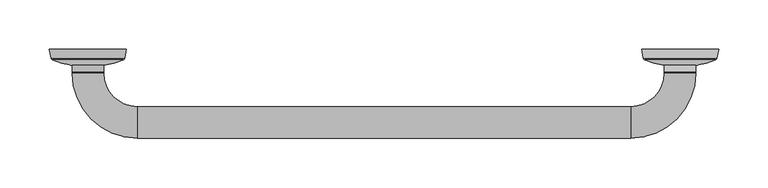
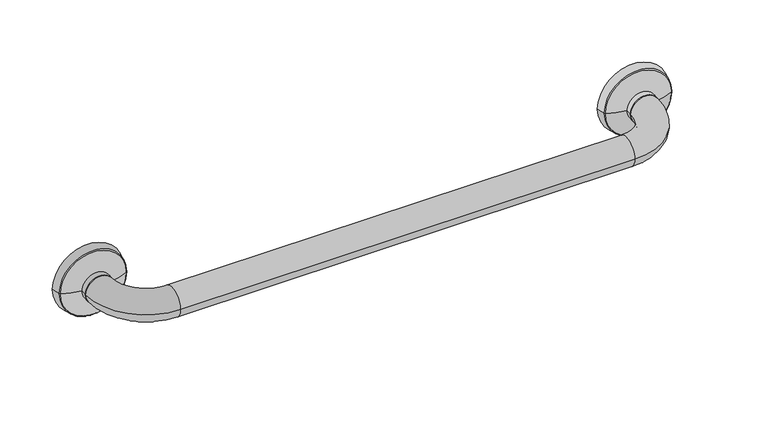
"""IFC4 building model written with IfcOpenShell, lengths in millimetres: proxy geometry, Grab Rail_Metlam_Straight_Horizontal : 632long x 90d x 32h (ML331_1SS)."""

from ifc_helpers import new_model, si_unit, point, frame, origin, place, context, project, spatial, polyline, circle_curve, ellipse_curve, trimmed, source, transform, mapped, element, save
from ifc_brep_helpers import plane_surface, cylinder_surface, revolved_surface, advanced_brep


def specialty_equipment_a5db7934(model_context):
    return source(origin(), model_context, "Body", "AdvancedBrep", [
        advanced_brep(
        [(89.0, -58.0, 784.0), (55.0, -24.0, 784.0), (23.0, -24.0, 784.0), (89.0, -90.0, 784.0), (589.0, -90.0, 784.0), (589.0, -58.0, 784.0), (655.0, -24.0, 784.0), (623.0, -24.0, 784.0), (55.0, -23.0, 784.0), (23.0, -23.0, 784.0), (655.0, -23.0, 784.0), (623.0, -23.0, 784.0), (0.0, 0.0, 784.0), (78.0, 0.0, 784.0), (76.1870729, -9.0646354, 784.0), (1.8129271, -9.0646354, 784.0), (2.8615925, -10.4521085, 784.0), (75.1384075, -10.4521085, 784.0), (55.0, -16.0065539, 784.0), (23.0, -16.0065539, 784.0), (39.0, 0.0, 784.0), (678.0, 0.0, 784.0), (600.0, 0.0, 784.0), (639.0, 0.0, 784.0), (676.1870729, -9.0646354, 784.0), (601.8129271, -9.0646354, 784.0), (655.0, -16.0065539, 784.0), (623.0, -16.0065539, 784.0), (602.8615925, -10.4521085, 784.0), (675.1384075, -10.4521085, 784.0)],
        [
            (0, 1, circle_curve(frame((89.0, -24.0, 784.0), z_axis=(0.0, 0.0, -1.0), x_axis=(-1.0, 0.0, 0.0)), 34.0)),
            (1, 2, circle_curve(frame((39.0, -24.0, 784.0), z_axis=(0.0, -1.0, 0.0), x_axis=(1.0, 0.0, 0.0)), 16.0)),
            (2, 3, circle_curve(frame((89.0, -24.0, 784.0), z_axis=(0.0, 0.0, 1.0), x_axis=(-1.0, 0.0, 0.0)), 66.0)),
            (3, 0, circle_curve(frame((89.0, -74.0, 784.0), z_axis=(-1.0, 1.825290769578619e-12, 0.0), x_axis=(1.825290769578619e-12, 1.0, 0.0)), 16.0)),
            (0, 3, circle_curve(frame((89.0, -74.0, 784.0), z_axis=(-1.0, 3.5350342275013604e-12, 0.0), x_axis=(3.5350342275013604e-12, 1.0, 0.0)), 16.0)),
            (2, 1, circle_curve(frame((39.0, -24.0, 784.0), z_axis=(0.0, -1.0, 0.0), x_axis=(1.0, 0.0, 0.0)), 16.0)),
            (3, 4),
            (4, 5, circle_curve(frame((589.0, -74.0, 784.0), z_axis=(-1.0, 0.0, 0.0), x_axis=(0.0, 1.0, 0.0)), 16.0)),
            (5, 0),
            (5, 4, circle_curve(frame((589.0, -74.0, 784.0), z_axis=(-1.0, 0.0, 0.0), x_axis=(0.0, 1.0, 0.0)), 16.0)),
            (4, 6, circle_curve(frame((589.0, -24.0, 784.0), z_axis=(0.0, 0.0, 1.0), x_axis=(0.0, -1.0, 0.0)), 66.0)),
            (6, 7, circle_curve(frame((639.0, -24.0, 784.0), z_axis=(0.0, -1.0, 0.0), x_axis=(-1.0, 0.0, 0.0)), 16.0)),
            (7, 5, circle_curve(frame((589.0, -24.0, 784.0), z_axis=(0.0, 0.0, -1.0), x_axis=(0.0, -1.0, 0.0)), 34.0)),
            (7, 6, circle_curve(frame((639.0, -24.0, 784.0), z_axis=(0.0, -1.0, 0.0), x_axis=(-1.0, 0.0, 0.0)), 16.0)),
            (1, 8),
            (8, 9, circle_curve(frame((39.0, -23.0, 784.0), z_axis=(0.0, -1.0, 0.0), x_axis=(1.0, 0.0, 0.0)), 16.0)),
            (9, 2),
            (9, 8, circle_curve(frame((39.0, -23.0, 784.0), z_axis=(0.0, -1.0, 0.0), x_axis=(1.0, 0.0, 0.0)), 16.0)),
            (6, 10),
            (10, 11, circle_curve(frame((639.0, -23.0, 784.0), z_axis=(0.0, -1.0, 0.0), x_axis=(-1.0, 0.0, 0.0)), 16.0)),
            (11, 7),
            (11, 10, circle_curve(frame((639.0, -23.0, 784.0), z_axis=(0.0, -1.0, 0.0), x_axis=(-1.0, 0.0, 0.0)), 16.0)),
            (12, 13, circle_curve(frame((39.0, 0.0, 784.0), z_axis=(0.0, -1.0, 0.0), x_axis=(1.0, 0.0, 0.0)), 39.0)),
            (13, 14),
            (14, 15, circle_curve(frame((39.0, -9.0646354, 784.0), z_axis=(0.0, 1.0, 0.0), x_axis=(1.0, 0.0, 0.0)), 37.1870729)),
            (15, 12),
            (13, 12, circle_curve(frame((39.0, 0.0, 784.0), z_axis=(0.0, -1.0, 0.0), x_axis=(1.0, 0.0, 0.0)), 39.0)),
            (15, 14, circle_curve(frame((39.0, -9.0646354, 784.0), z_axis=(0.0, 1.0, 0.0), x_axis=(1.0, 0.0, 0.0)), 37.1870729)),
            (16, 17, circle_curve(frame((39.0, -10.4521085, 784.0), z_axis=(0.0, -1.0, 0.0), x_axis=(1.0, 0.0, 0.0)), 36.1384075)),
            (17, 18, circle_curve(frame((51.6887092, 35.2834961, 784.0), z_axis=(0.0, 0.0, -1.0), x_axis=(-1.0, 0.0, 0.0)), 51.3968275)),
            (18, 19, circle_curve(frame((39.0, -16.0065539, 784.0), z_axis=(0.0, 1.0, 0.0), x_axis=(1.0, 0.0, 0.0)), 16.0)),
            (19, 16, circle_curve(frame((26.3112908, 35.2834961, 784.0), z_axis=(0.0, 0.0, -1.0), x_axis=(1.0, 0.0, 0.0)), 51.3968275)),
            (17, 16, circle_curve(frame((39.0, -10.4521085, 784.0), z_axis=(0.0, -1.0, 0.0), x_axis=(1.0, 0.0, 0.0)), 36.1384075)),
            (19, 18, circle_curve(frame((39.0, -16.0065539, 784.0), z_axis=(0.0, 1.0, 0.0), x_axis=(1.0, 0.0, 0.0)), 16.0)),
            (18, 8),
            (9, 19),
            (12, 20),
            (20, 13),
            (14, 17, circle_curve(frame((74.2259116, -8.6724031, 784.0), z_axis=(0.0, 0.0, -1.0), x_axis=(-1.0, 0.0, 0.0)), 2.0)),
            (16, 15, circle_curve(frame((3.7740884, -8.6724031, 784.0), z_axis=(0.0, 0.0, -1.0), x_axis=(1.0, 0.0, 0.0)), 2.0)),
            (21, 22, circle_curve(frame((639.0, 0.0, 784.0), z_axis=(0.0, 1.0, 0.0), x_axis=(-1.0, 0.0, 0.0)), 39.0)),
            (22, 23),
            (23, 21),
            (22, 21, circle_curve(frame((639.0, 0.0, 784.0), z_axis=(0.0, 1.0, 0.0), x_axis=(-1.0, 0.0, 0.0)), 39.0)),
            (21, 24),
            (24, 25, circle_curve(frame((639.0, -9.0646354, 784.0), z_axis=(0.0, 1.0, 0.0), x_axis=(-1.0, 0.0, 0.0)), 37.1870729)),
            (25, 22),
            (25, 24, circle_curve(frame((639.0, -9.0646354, 784.0), z_axis=(0.0, 1.0, 0.0), x_axis=(-1.0, 0.0, 0.0)), 37.1870729)),
            (26, 27, circle_curve(frame((639.0, -16.0065539, 784.0), z_axis=(0.0, 1.0, 0.0), x_axis=(-1.0, 0.0, 0.0)), 16.0)),
            (27, 28, circle_curve(frame((626.3112908, 35.2834961, 784.0), z_axis=(0.0, 0.0, -1.0), x_axis=(-1.0, 0.0, 0.0)), 51.3968275)),
            (28, 29, circle_curve(frame((639.0, -10.4521085, 784.0), z_axis=(0.0, -1.0, 0.0), x_axis=(-1.0, 0.0, 0.0)), 36.1384075)),
            (29, 26, circle_curve(frame((651.6887092, 35.2834961, 784.0), z_axis=(0.0, 0.0, -1.0), x_axis=(1.0, 0.0, 0.0)), 51.3968275)),
            (27, 26, circle_curve(frame((639.0, -16.0065539, 784.0), z_axis=(0.0, 1.0, 0.0), x_axis=(-1.0, 0.0, 0.0)), 16.0)),
            (29, 28, circle_curve(frame((639.0, -10.4521085, 784.0), z_axis=(0.0, -1.0, 0.0), x_axis=(-1.0, 0.0, 0.0)), 36.1384075)),
            (26, 10),
            (11, 27),
            (24, 29, circle_curve(frame((674.2259116, -8.6724031, 784.0), z_axis=(0.0, 0.0, -1.0), x_axis=(1.0, 0.0, 0.0)), 2.0)),
            (28, 25, circle_curve(frame((603.7740884, -8.6724031, 784.0), z_axis=(0.0, 0.0, -1.0), x_axis=(-1.0, 0.0, 0.0)), 2.0)),
        ],
        [
            revolved_surface(trimmed(ellipse_curve(frame((39.0, -24.0, 784.0), z_axis=(0.0, 1.0, 0.0), x_axis=(1.0, 0.0, 0.0)), 16.0, 16.0), [point((23.0, -24.0, 784.0))], [point((55.0, -24.0, 784.0))], True, "CARTESIAN"), (89.0, -24.0, 784.0), (0.0, 0.0, 1.0)),
            revolved_surface(trimmed(ellipse_curve(frame((39.0, -24.0, 784.0), z_axis=(0.0, 1.0, 0.0), x_axis=(1.0, 0.0, 0.0)), 16.0, 16.0), [point((55.0, -24.0, 784.0))], [point((23.0, -24.0, 784.0))], True, "CARTESIAN"), (89.0, -24.0, 784.0), (0.0, 0.0, 1.0)),
            cylinder_surface(frame((89.0, -74.0, 784.0), z_axis=(-1.0, 0.0, 0.0), x_axis=(0.0, 1.0, 0.0)), 16.0),
            revolved_surface(trimmed(ellipse_curve(frame((589.0, -74.0, 784.0), z_axis=(-1.0, 0.0, 0.0), x_axis=(0.0, 1.0, 0.0)), 16.0, 16.0), [point((589.0, -90.0, 784.0))], [point((589.0, -58.0, 784.0))], True, "CARTESIAN"), (589.0, -24.0, 784.0), (0.0, 0.0, 1.0)),
            revolved_surface(trimmed(ellipse_curve(frame((589.0, -74.0, 784.0), z_axis=(-1.0, 0.0, 0.0), x_axis=(0.0, 1.0, 0.0)), 16.0, 16.0), [point((589.0, -58.0, 784.0))], [point((589.0, -90.0, 784.0))], True, "CARTESIAN"), (589.0, -24.0, 784.0), (0.0, 0.0, 1.0)),
            cylinder_surface(frame((39.0, -23.0, 784.0), z_axis=(0.0, 1.0, 0.0), x_axis=(1.0, 0.0, 0.0)), 16.0),
            cylinder_surface(frame((639.0, -24.0, 784.0), z_axis=(0.0, -1.0, 0.0), x_axis=(-1.0, 0.0, 0.0)), 16.0),
            revolved_surface(polyline([(76.1870729, -9.0646354, 784.0), (78.0, 0.0, 784.0)]), (39.0, -10.0, 784.0), (0.0, 1.0, 0.0)),
            revolved_surface(trimmed(ellipse_curve(frame((51.6887092, 35.2834961, 784.0), z_axis=(0.0, 0.0, 1.0), x_axis=(-1.0, 0.0, 0.0)), 51.3968275, 51.3968275), [point((55.0, -16.0065539, 784.0))], [point((75.1384075, -10.4521085, 784.0))], True, "CARTESIAN"), (39.0, -10.0, 784.0), (0.0, 1.0, 0.0)),
            cylinder_surface(frame((39.0, -10.0, 784.0), z_axis=(0.0, 1.0, 0.0), x_axis=(1.0, 0.0, 0.0)), 16.0),
            plane_surface(frame((39.0, 0.0, 784.0), z_axis=(0.0, 1.0, 0.0), x_axis=(1.0, 0.0, 0.0))),
            revolved_surface(trimmed(ellipse_curve(frame((74.2259116, -8.6724031, 784.0), z_axis=(0.0, 0.0, 1.0), x_axis=(-1.0, 0.0, 0.0)), 2.0, 2.0), [point((75.1384075, -10.4521085, 784.0))], [point((76.1870729, -9.0646354, 784.0))], True, "CARTESIAN"), (39.0, -10.0, 784.0), (0.0, 1.0, 0.0)),
            plane_surface(frame((639.0, 0.0, 784.0), z_axis=(0.0, 1.0, 0.0), x_axis=(-1.0, 0.0, 0.0))),
            revolved_surface(polyline([(600.0, 0.0, 784.0), (601.8129271, -9.0646354, 784.0)]), (639.0, -10.0, 784.0), (0.0, -1.0, 0.0)),
            revolved_surface(trimmed(ellipse_curve(frame((626.3112908, 35.2834961, 784.0), z_axis=(0.0, 0.0, 1.0), x_axis=(-1.0, 0.0, 0.0)), 51.3968275, 51.3968275), [point((602.8615925, -10.4521085, 784.0))], [point((623.0, -16.0065539, 784.0))], True, "CARTESIAN"), (639.0, -10.0, 784.0), (0.0, -1.0, 0.0)),
            cylinder_surface(frame((639.0, -10.0, 784.0), z_axis=(0.0, -1.0, 0.0), x_axis=(-1.0, 0.0, 0.0)), 16.0),
            revolved_surface(trimmed(ellipse_curve(frame((603.7740884, -8.6724031, 784.0), z_axis=(0.0, 0.0, 1.0), x_axis=(-1.0, 0.0, 0.0)), 2.0, 2.0), [point((601.8129271, -9.0646354, 784.0))], [point((602.8615925, -10.4521085, 784.0))], True, "CARTESIAN"), (639.0, -10.0, 784.0), (0.0, -1.0, 0.0)),
        ],
        [
            (0, [[1, 2, 3, 4]]),
            (1, [[-1, 5, -3, 6]]),
            (2, [[-4, 7, 8, 9]]),
            (2, [[-5, -9, 10, -7]]),
            (3, [[-8, 11, 12, 13]]),
            (4, [[-10, -13, 14, -11]]),
            (5, [[-2, 15, 16, 17]]),
            (5, [[-6, -17, 18, -15]]),
            (6, [[-12, 19, 20, 21]]),
            (6, [[-14, -21, 22, -19]]),
            (7, [[23, 24, 25, 26]]),
            (7, [[-24, 27, -26, 28]]),
            (8, [[29, 30, 31, 32]]),
            (8, [[-30, 33, -32, 34]]),
            (9, [[-31, 35, -18, 36]]),
            (9, [[-34, -36, -16, -35]]),
            (10, [[-23, 37, 38]]),
            (10, [[-27, -38, -37]]),
            (11, [[-25, 39, -29, 40]]),
            (11, [[-28, -40, -33, -39]]),
            (12, [[41, 42, 43]]),
            (12, [[-42, 44, -43]]),
            (13, [[-41, 45, 46, 47]]),
            (13, [[-44, -47, 48, -45]]),
            (14, [[49, 50, 51, 52]]),
            (14, [[-50, 53, -52, 54]]),
            (15, [[-49, 55, -22, 56]]),
            (15, [[-53, -56, -20, -55]]),
            (16, [[-46, 57, -51, 58]]),
            (16, [[-48, -58, -54, -57]]),
        ],
    ),
    ])


if __name__ == "__main__":
    model = new_model("IFC4")
    model_context = context("Model", 3, world=origin())
    ifc_project = project(units=[si_unit("LENGTHUNIT", "METRE", prefix="MILLI")], contexts=[model_context])
    site = spatial("IfcSite", under=ifc_project)
    building = spatial("IfcBuilding", under=site)
    placement = place(None, origin())
    specialty_equipment_shape = specialty_equipment_a5db7934(model_context)
    element("IfcBuildingElementProxy", 1, Name="Grab Rail_Metlam_Straight_Horizontal : 632long x 90d x 32h (ML331_1SS)", ObjectType="Grab Rail_Metlam_Straight_Horizontal : 632long x 90d x 32h (ML331_1SS)", at=placement, inside=building, context=model_context, shape_type="MappedRepresentation", body=[
        mapped(specialty_equipment_shape, transform((0.0, 0.0, 0.0), x_axis=(1.0, 0.0, 0.0), y_axis=(0.0, 1.0, 0.0), z_axis=(0.0, 0.0, 1.0))),
    ])
    save(model, "model.ifc")
